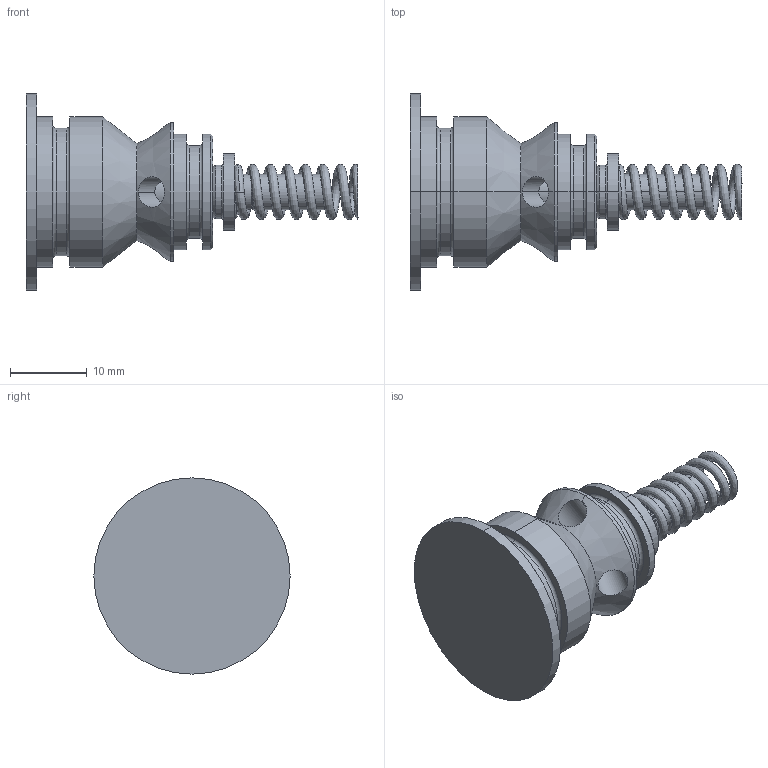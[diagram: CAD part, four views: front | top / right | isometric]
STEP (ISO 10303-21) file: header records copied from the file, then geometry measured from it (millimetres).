
FILE_DESCRIPTION (( 'STEP AP214' ), '1' );
FILE_NAME ('2206_Super.STEP', '2021-09-01T08:29:46', ( '' ), ( '' ), 'SwSTEP 2.0', 'SolidWorks 2020', '' );
FILE_SCHEMA (( 'AUTOMOTIVE_DESIGN' ));
Length unit declared in the file: millimetre
Products named in the file (1): 2206_Super
Bounding box: 43.15 x 25.5 x 25.5 mm (x, y, z)
Volume: 5939.7 mm3; surface area: 3874.8 mm2
Topology: 3 solids, 3 shells, 95 faces, 192 edges, 115 vertices
Faces by surface type: cylinder 45, plane 18, cone 14, torus 12, bspline 6
Entity records: 8239 total; most frequent: CARTESIAN_POINT 5161, DIRECTION 439, ORIENTED_EDGE 384, EDGE_CURVE 192, AXIS2_PLACEMENT_3D 190, VERTEX_POINT 115, EDGE_LOOP 107, UNCERTAINTY_MEASURE_WITH_UNIT 100
